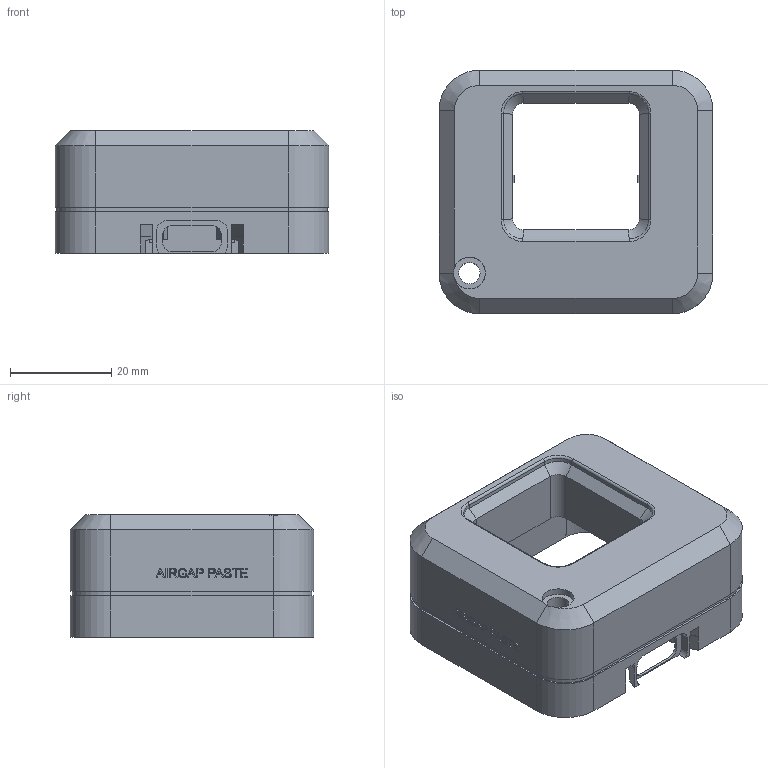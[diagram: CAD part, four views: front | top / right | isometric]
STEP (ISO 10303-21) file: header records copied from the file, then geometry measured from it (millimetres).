
FILE_DESCRIPTION(('Open CASCADE Model'),'2;1');
FILE_NAME('Open CASCADE Shape Model','2026-10-06T21:24:29',('Author'),( 'Open CASCADE'),'Open CASCADE STEP processor 7.9','Open CASCADE 7.9' ,'Unknown');
FILE_SCHEMA(('AUTOMOTIVE_DESIGN { 1 0 10303 214 1 1 1 1 }'));
Length unit declared in the file: millimetre
Products named in the file (1): Open CASCADE STEP translator 7.9 1
Bounding box: 54 x 48 x 24.2 mm (x, y, z)
Volume: 16508.1 mm3; surface area: 17530.8 mm2
Topology: 1 solids, 1 shells, 467 faces, 1262 edges, 824 vertices
Faces by surface type: plane 274, extrusion 100, cylinder 51, bspline 34, cone 4, torus 4
Full cylindrical faces by diameter (mm): 3.4 x4, 4.2 x1, 6.3 x1
Entity records: 31899 total; most frequent: CARTESIAN_POINT 8802, DIRECTION 3407, ORIENTED_EDGE 2524, PCURVE 2524, DEFINITIONAL_REPRESENTATION 2524, VECTOR 2428, LINE 2328, B_SPLINE_CURVE_WITH_KNOTS 1342
